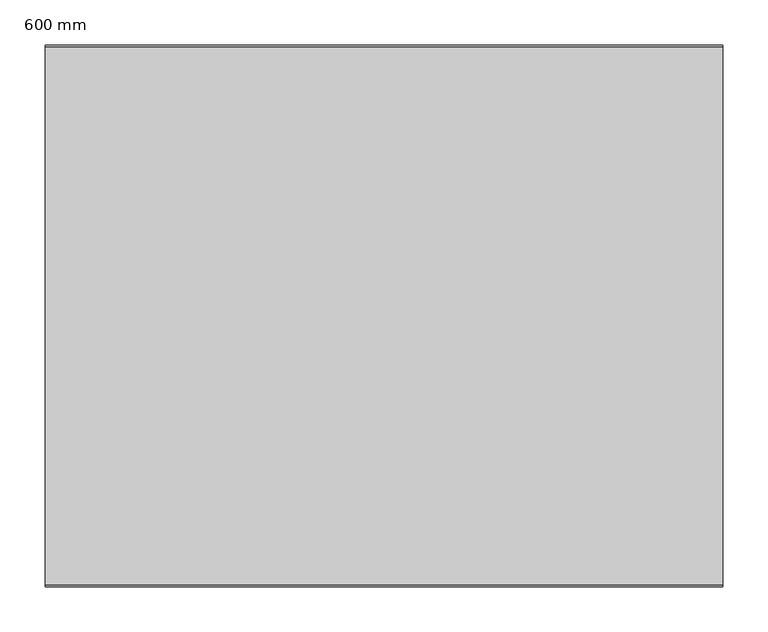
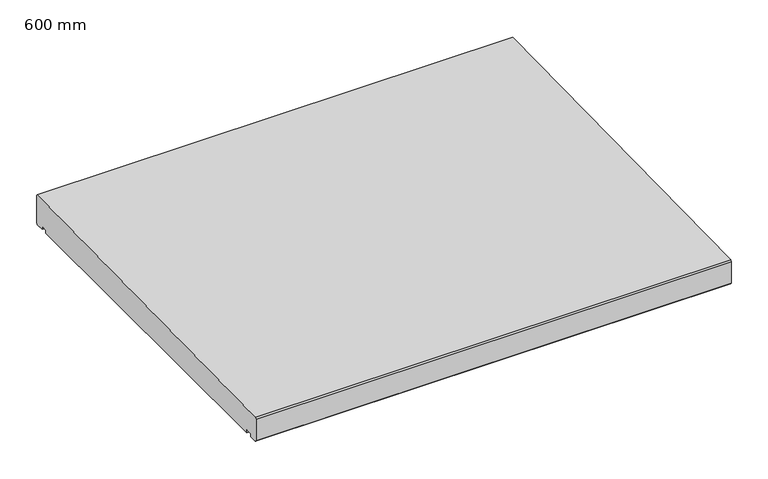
"""IFC4 building model written with IfcOpenShell, lengths in millimetres: proxy geometry, 400_35_NS_afdekker_éénzijdig_afwaterend : 600 mm."""

from ifc_helpers import new_model, si_unit, frame, origin, place, context, project, spatial, polyline, outline, extrude, source, transform, mapped, element, save


def proxy_600_mm_7a91cd88(model_context):
    return source(origin(), model_context, "Body", "SweptSolid", [
        extrude(outline(polyline([(600.0, 2.0), (598.0, 0.0), (585.0, 0.0), (585.0, 5.0), (575.0, 5.0), (575.0, 0.0), (25.0, 0.0), (25.0, 5.0), (15.0, 5.0), (15.0, 0.0), (2.0, 0.0), (0.0, 2.0), (0.0, 38.0), (2.0, 40.0), (598.0, 50.0), (600.0, 48.0), (600.0, 2.0)])), frame((-375.0, 0.0, 0.0), z_axis=(1.0, 0.0, 0.0), x_axis=(0.0, 1.0, 0.0)), (0.0, 0.0, 1.0), 750.0),
    ])


if __name__ == "__main__":
    model = new_model("IFC4")
    model_context = context("Model", 3, world=origin())
    ifc_project = project(units=[si_unit("LENGTHUNIT", "METRE", prefix="MILLI")], contexts=[model_context])
    site = spatial("IfcSite", under=ifc_project)
    building = spatial("IfcBuilding", under=site)
    placement = place(None, origin())
    proxy_600_mm_shape = proxy_600_mm_7a91cd88(model_context)
    element("IfcBuildingElementProxy", 1, Name="400_35_NS_afdekker_éénzijdig_afwaterend : 600 mm", ObjectType="400_35_NS_afdekker_éénzijdig_afwaterend : 600 mm", at=placement, inside=building, context=model_context, shape_type="MappedRepresentation", body=[
        mapped(proxy_600_mm_shape, transform((0.0, 0.0, 0.0), x_axis=(1.0, 0.0, 0.0), y_axis=(0.0, 1.0, 0.0), z_axis=(0.0, 0.0, 1.0))),
    ])
    save(model, "model.ifc")
